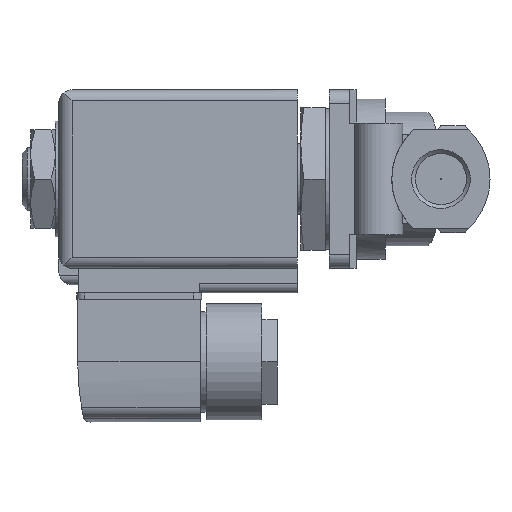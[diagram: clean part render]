
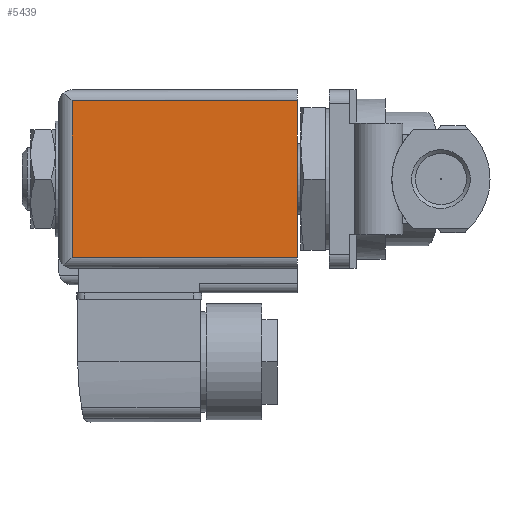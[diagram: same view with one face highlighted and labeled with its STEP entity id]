
A CAD part, left-side view. The second image highlights one B-rep face of the part: STEP entity #5439.
In plain terms, the highlighted planar face has unit normal (-1, 0, 0).
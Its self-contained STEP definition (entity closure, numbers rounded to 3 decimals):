
#247=LINE('',#7373,#605);
#248=LINE('',#7376,#606);
#249=LINE('',#7378,#607);
#250=LINE('',#7380,#608);
#605=VECTOR('',#6204,1000.);
#606=VECTOR('',#6205,1000.);
#607=VECTOR('',#6206,1000.);
#608=VECTOR('',#6207,1000.);
#1021=ORIENTED_EDGE('',*,*,#2134,.T.);
#1022=ORIENTED_EDGE('',*,*,#2135,.T.);
#1023=ORIENTED_EDGE('',*,*,#2136,.T.);
#1024=ORIENTED_EDGE('',*,*,#2137,.F.);
#2134=EDGE_CURVE('',#2683,#2684,#247,.T.);
#2135=EDGE_CURVE('',#2684,#2685,#248,.T.);
#2136=EDGE_CURVE('',#2685,#2686,#249,.T.);
#2137=EDGE_CURVE('',#2683,#2686,#250,.T.);
#2683=VERTEX_POINT('',#7374);
#2684=VERTEX_POINT('',#7375);
#2685=VERTEX_POINT('',#7377);
#2686=VERTEX_POINT('',#7379);
#3118=EDGE_LOOP('',(#1021,#1022,#1023,#1024));
#3390=FACE_BOUND('',#3118,.T.);
#3655=PLANE('',#5707);
#5439=ADVANCED_FACE('',(#3390),#3655,.F.);
#5707=AXIS2_PLACEMENT_3D('',#7372,#6202,#6203);
#6202=DIRECTION('',(1.,0.,0.));
#6203=DIRECTION('',(0.,0.,-1.));
#6204=DIRECTION('',(0.,0.,-1.));
#6205=DIRECTION('',(0.,-1.,0.));
#6206=DIRECTION('',(0.,0.,1.));
#6207=DIRECTION('',(0.,-1.,0.));
#7372=CARTESIAN_POINT('',(-20.,60.65,-20.));
#7373=CARTESIAN_POINT('',(-20.,57.65,20.));
#7374=CARTESIAN_POINT('',(-20.,57.65,17.5));
#7375=CARTESIAN_POINT('',(-20.,57.65,-17.5));
#7376=CARTESIAN_POINT('',(-20.,60.65,-17.5));
#7377=CARTESIAN_POINT('',(-20.,7.15,-17.5));
#7378=CARTESIAN_POINT('',(-20.,7.15,-20.));
#7379=CARTESIAN_POINT('',(-20.,7.15,17.5));
#7380=CARTESIAN_POINT('',(-20.,60.65,17.5));
